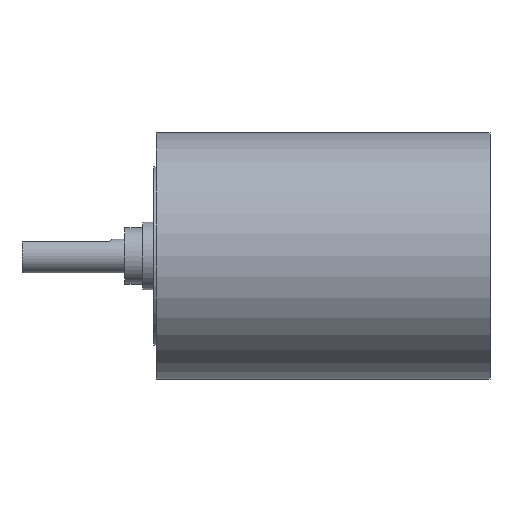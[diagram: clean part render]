
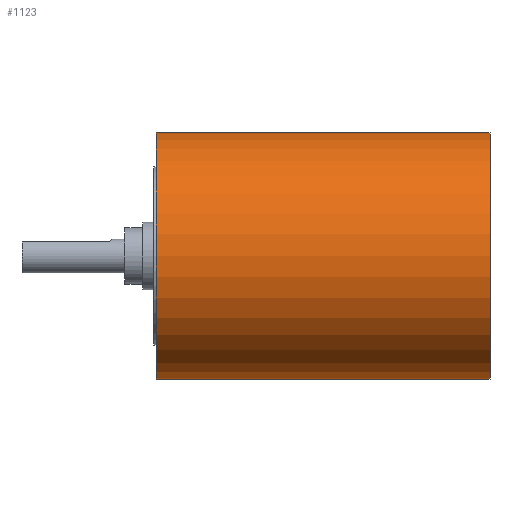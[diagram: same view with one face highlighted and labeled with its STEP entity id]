
A CAD part, top view. The second image highlights one B-rep face of the part: STEP entity #1123.
In plain terms, the highlighted cylindrical face has radius 11 mm (diameter 22 mm), a partial arc.
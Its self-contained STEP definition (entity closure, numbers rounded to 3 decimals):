
#6=CARTESIAN_POINT('',(0.2,0.,0.));
#7=DIRECTION('',(1.,0.,0.));
#8=DIRECTION('',(0.,1.,0.));
#9=AXIS2_PLACEMENT_3D('',#6,#7,#8);
#365=DIRECTION('',(-1.,0.,0.));
#366=VECTOR('',#365,29.75);
#367=CARTESIAN_POINT('',(29.95,11.,0.));
#368=LINE('',#367,#366);
#369=DIRECTION('',(-1.,0.,0.));
#370=VECTOR('',#369,29.75);
#371=CARTESIAN_POINT('',(29.95,-11.,0.));
#372=LINE('',#371,#370);
#378=CARTESIAN_POINT('',(29.95,0.,0.));
#379=DIRECTION('',(1.,0.,0.));
#380=DIRECTION('',(0.,1.,0.));
#381=AXIS2_PLACEMENT_3D('',#378,#379,#380);
#419=CARTESIAN_POINT('',(29.95,11.,0.));
#420=CARTESIAN_POINT('',(0.2,11.,0.));
#421=VERTEX_POINT('',#419);
#422=VERTEX_POINT('',#420);
#435=CARTESIAN_POINT('',(29.95,-11.,0.));
#436=CARTESIAN_POINT('',(0.2,-11.,0.));
#437=VERTEX_POINT('',#435);
#438=VERTEX_POINT('',#436);
#1111=CARTESIAN_POINT('',(-11.75,0.,0.));
#1112=DIRECTION('',(1.,0.,0.));
#1113=DIRECTION('',(0.,-1.,0.));
#1114=AXIS2_PLACEMENT_3D('',#1111,#1112,#1113);
#1115=CYLINDRICAL_SURFACE('',#1114,11.);
#1116=ORIENTED_EDGE('',*,*,#1101,.F.);
#1118=ORIENTED_EDGE('',*,*,#1117,.T.);
#1119=ORIENTED_EDGE('',*,*,#1104,.T.);
#1120=ORIENTED_EDGE('',*,*,#533,.F.);
#1121=EDGE_LOOP('',(#1116,#1118,#1119,#1120));
#1122=FACE_OUTER_BOUND('',#1121,.F.);
#1123=ADVANCED_FACE('',(#1122),#1115,.T.);
#10=CIRCLE('',#9,11.);
#382=CIRCLE('',#381,11.);
#533=EDGE_CURVE('',#422,#438,#10,.T.);
#1101=EDGE_CURVE('',#421,#422,#368,.T.);
#1104=EDGE_CURVE('',#437,#438,#372,.T.);
#1117=EDGE_CURVE('',#421,#437,#382,.T.);
